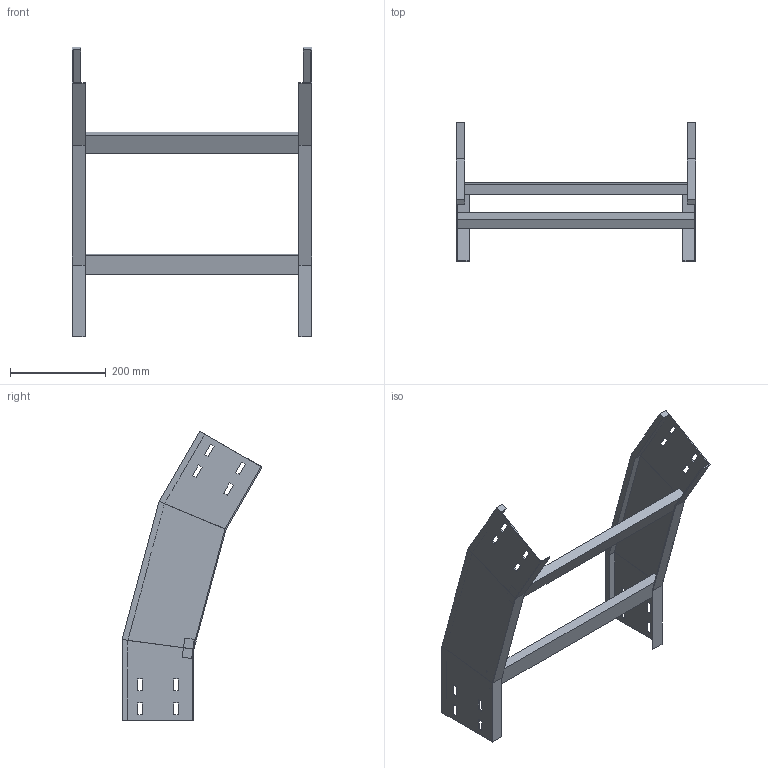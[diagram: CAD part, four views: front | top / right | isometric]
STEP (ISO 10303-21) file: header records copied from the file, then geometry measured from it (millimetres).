
FILE_DESCRIPTION (( 'STEP AP214' ), '1' );
FILE_NAME ('35J5F500.step', '2025-02-21T16:21:35', ( '' ), ( '' ), 'SwSTEP 2.0', 'SolidWorks 2023', '' );
FILE_SCHEMA (( 'AUTOMOTIVE_DESIGN' ));
Length unit declared in the file: millimetre
Products named in the file (3): TRAVERSINO_500; LONGH.DISCESA_30°_H150_R500; 35J5F500
Assembly tree (4 placements, depth 2):
  35J5F500
    LONGH.DISCESA_30°_H150_R500  x2
    TRAVERSINO_500  x2
Bounding box: 500 x 292.03 x 605.08 mm (x, y, z)
Volume: 1455145.5 mm3; surface area: 580883.3 mm2
Topology: 4 solids, 4 shells, 128 faces, 328 edges, 208 vertices
Faces by surface type: plane 128
Entity records: 2016 total; most frequent: CARTESIAN_POINT 339, ORIENTED_EDGE 328, DIRECTION 306, LINE 164, VECTOR 164, EDGE_CURVE 164, VERTEX_POINT 104, EDGE_LOOP 80
